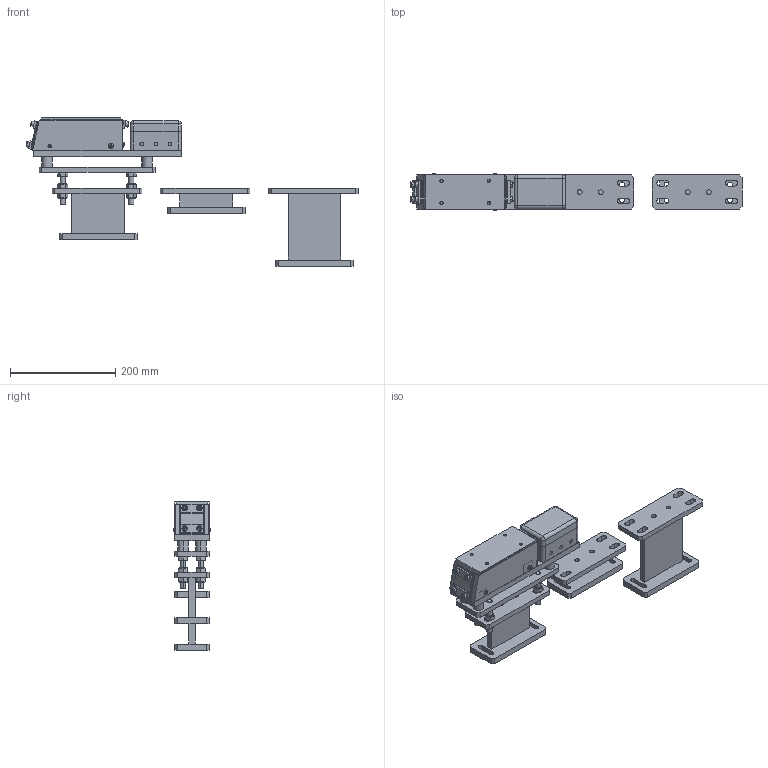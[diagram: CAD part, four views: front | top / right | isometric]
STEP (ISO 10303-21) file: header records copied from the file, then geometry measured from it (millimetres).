
FILE_DESCRIPTION (( 'STEP AP203' ), '1' );
FILE_NAME ('ZY150 盓殤恁饜25.07 載陔.STEP', '2025-07-24T04:51:34', ( '' ), ( '' ), 'SwSTEP 2.0', 'SolidWorks 2022', '' );
FILE_SCHEMA (( 'CONFIG_CONTROL_DESIGN' ));
Length unit declared in the file: millimetre
Products named in the file (1): ZY150 盓殤恁饜25.07 載陔
Bounding box: 629.69 x 70.5 x 282 mm (x, y, z)
Volume: 1926145.9 mm3; surface area: 527213.8 mm2
Topology: 74 solids, 74 shells, 1253 faces, 2977 edges, 1892 vertices
Faces by surface type: plane 659, cylinder 414, cone 152, torus 16, sphere 12
Entity records: 37787 total; most frequent: CARTESIAN_POINT 7852, DIRECTION 6334, ORIENTED_EDGE 5900, EDGE_CURVE 2950, AXIS2_PLACEMENT_3D 2310, VERTEX_POINT 1892, LINE 1714, VECTOR 1714
